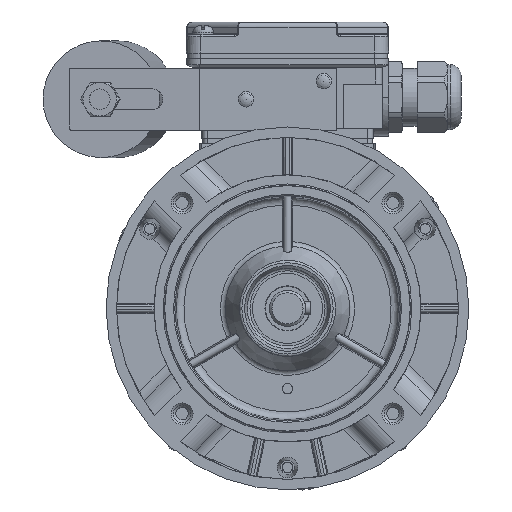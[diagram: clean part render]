
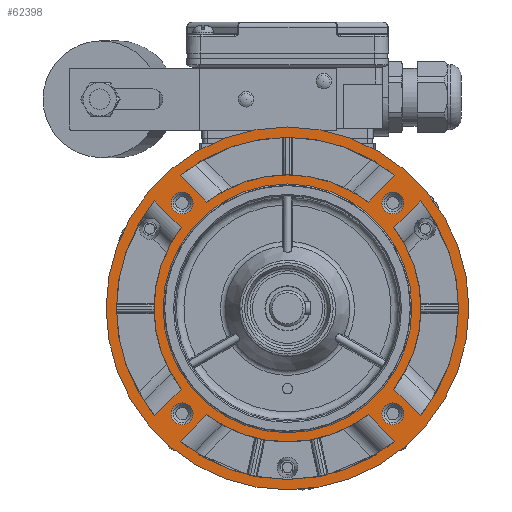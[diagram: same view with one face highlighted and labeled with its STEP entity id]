
A CAD part, front view. The second image highlights one B-rep face of the part: STEP entity #62398.
In plain terms, the highlighted planar face has unit normal (0, -1, 0).
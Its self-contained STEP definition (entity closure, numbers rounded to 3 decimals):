
#2473=CIRCLE('',#66133,48.);
#2474=CIRCLE('',#66135,51.5);
#2475=CIRCLE('',#66138,66.);
#2476=CIRCLE('',#66141,51.5);
#2477=CIRCLE('',#66144,66.);
#2478=CIRCLE('',#66147,51.5);
#2479=CIRCLE('',#66150,66.);
#2480=CIRCLE('',#66154,51.5);
#2481=CIRCLE('',#66157,66.);
#2482=CIRCLE('',#66159,4.2);
#2483=CIRCLE('',#66161,4.2);
#2484=CIRCLE('',#66163,4.2);
#2485=CIRCLE('',#66165,4.2);
#2620=CIRCLE('',#66391,70.);
#5655=LINE('',#96165,#8402);
#5656=LINE('',#96175,#8403);
#5657=LINE('',#96191,#8404);
#5658=LINE('',#96207,#8405);
#5659=LINE('',#96229,#8406);
#5660=LINE('',#96239,#8407);
#5661=LINE('',#96247,#8408);
#5662=LINE('',#96269,#8409);
#8402=VECTOR('',#75519,1000.);
#8403=VECTOR('',#75526,1000.);
#8404=VECTOR('',#75533,1000.);
#8405=VECTOR('',#75540,1000.);
#8406=VECTOR('',#75547,1000.);
#8407=VECTOR('',#75554,1000.);
#8408=VECTOR('',#75557,1000.);
#8409=VECTOR('',#75564,1000.);
#10028=PLANE('',#66390);
#19790=ORIENTED_EDGE('',*,*,#28103,.T.);
#19791=ORIENTED_EDGE('',*,*,#28102,.T.);
#19792=ORIENTED_EDGE('',*,*,#28101,.T.);
#19793=ORIENTED_EDGE('',*,*,#28100,.T.);
#19794=ORIENTED_EDGE('',*,*,#28099,.F.);
#19795=ORIENTED_EDGE('',*,*,#28098,.F.);
#19796=ORIENTED_EDGE('',*,*,#28095,.T.);
#19797=ORIENTED_EDGE('',*,*,#28093,.T.);
#19798=ORIENTED_EDGE('',*,*,#28091,.T.);
#19799=ORIENTED_EDGE('',*,*,#28089,.F.);
#19800=ORIENTED_EDGE('',*,*,#28088,.F.);
#19801=ORIENTED_EDGE('',*,*,#28085,.T.);
#19802=ORIENTED_EDGE('',*,*,#28083,.T.);
#19803=ORIENTED_EDGE('',*,*,#28081,.F.);
#19804=ORIENTED_EDGE('',*,*,#28079,.F.);
#19805=ORIENTED_EDGE('',*,*,#28077,.T.);
#19806=ORIENTED_EDGE('',*,*,#28075,.T.);
#19807=ORIENTED_EDGE('',*,*,#28073,.F.);
#19808=ORIENTED_EDGE('',*,*,#28072,.F.);
#19809=ORIENTED_EDGE('',*,*,#28069,.T.);
#19810=ORIENTED_EDGE('',*,*,#28067,.T.);
#19811=ORIENTED_EDGE('',*,*,#28478,.T.);
#28067=EDGE_CURVE('',#33204,#33204,#2473,.F.);
#28069=EDGE_CURVE('',#33206,#33205,#2474,.T.);
#28072=EDGE_CURVE('',#33206,#33207,#5655,.T.);
#28073=EDGE_CURVE('',#33207,#33208,#2475,.T.);
#28075=EDGE_CURVE('',#33205,#33208,#5656,.T.);
#28077=EDGE_CURVE('',#33210,#33209,#2476,.T.);
#28079=EDGE_CURVE('',#33210,#33211,#5657,.T.);
#28081=EDGE_CURVE('',#33211,#33212,#2477,.T.);
#28083=EDGE_CURVE('',#33209,#33212,#5658,.T.);
#28085=EDGE_CURVE('',#33214,#33213,#2478,.T.);
#28088=EDGE_CURVE('',#33214,#33215,#5659,.T.);
#28089=EDGE_CURVE('',#33215,#33216,#2479,.T.);
#28091=EDGE_CURVE('',#33213,#33216,#5660,.T.);
#28093=EDGE_CURVE('',#33218,#33217,#5661,.T.);
#28095=EDGE_CURVE('',#33219,#33218,#2480,.T.);
#28098=EDGE_CURVE('',#33219,#33220,#5662,.T.);
#28099=EDGE_CURVE('',#33220,#33217,#2481,.T.);
#28100=EDGE_CURVE('',#33221,#33221,#2482,.F.);
#28101=EDGE_CURVE('',#33222,#33222,#2483,.F.);
#28102=EDGE_CURVE('',#33223,#33223,#2484,.F.);
#28103=EDGE_CURVE('',#33224,#33224,#2485,.F.);
#28478=EDGE_CURVE('',#33465,#33465,#2620,.T.);
#33204=VERTEX_POINT('',#96143);
#33205=VERTEX_POINT('',#96150);
#33206=VERTEX_POINT('',#96152);
#33207=VERTEX_POINT('',#96164);
#33208=VERTEX_POINT('',#96168);
#33209=VERTEX_POINT('',#96182);
#33210=VERTEX_POINT('',#96184);
#33211=VERTEX_POINT('',#96192);
#33212=VERTEX_POINT('',#96200);
#33213=VERTEX_POINT('',#96214);
#33214=VERTEX_POINT('',#96216);
#33215=VERTEX_POINT('',#96228);
#33216=VERTEX_POINT('',#96232);
#33217=VERTEX_POINT('',#96246);
#33218=VERTEX_POINT('',#96248);
#33219=VERTEX_POINT('',#96256);
#33220=VERTEX_POINT('',#96268);
#33221=VERTEX_POINT('',#96274);
#33222=VERTEX_POINT('',#96277);
#33223=VERTEX_POINT('',#96280);
#33224=VERTEX_POINT('',#96283);
#33465=VERTEX_POINT('',#98928);
#38453=EDGE_LOOP('',(#19790));
#38454=EDGE_LOOP('',(#19791));
#38455=EDGE_LOOP('',(#19792));
#38456=EDGE_LOOP('',(#19793));
#38457=EDGE_LOOP('',(#19794,#19795,#19796,#19797));
#38458=EDGE_LOOP('',(#19798,#19799,#19800,#19801));
#38459=EDGE_LOOP('',(#19802,#19803,#19804,#19805));
#38460=EDGE_LOOP('',(#19806,#19807,#19808,#19809));
#38461=EDGE_LOOP('',(#19810));
#38462=EDGE_LOOP('',(#19811));
#41500=FACE_BOUND('',#38453,.T.);
#41501=FACE_BOUND('',#38454,.T.);
#41502=FACE_BOUND('',#38455,.T.);
#41503=FACE_BOUND('',#38456,.T.);
#41504=FACE_BOUND('',#38457,.T.);
#41505=FACE_BOUND('',#38458,.T.);
#41506=FACE_BOUND('',#38459,.T.);
#41507=FACE_BOUND('',#38460,.T.);
#41508=FACE_BOUND('',#38461,.T.);
#41509=FACE_BOUND('',#38462,.T.);
#62398=ADVANCED_FACE('',(#41500,#41501,#41502,#41503,#41504,#41505,#41506,
#41507,#41508,#41509),#10028,.T.);
#66133=AXIS2_PLACEMENT_3D('',#96142,#75511,#75512);
#66135=AXIS2_PLACEMENT_3D('',#96151,#75515,#75516);
#66138=AXIS2_PLACEMENT_3D('',#96167,#75522,#75523);
#66141=AXIS2_PLACEMENT_3D('',#96183,#75529,#75530);
#66144=AXIS2_PLACEMENT_3D('',#96199,#75536,#75537);
#66147=AXIS2_PLACEMENT_3D('',#96215,#75543,#75544);
#66150=AXIS2_PLACEMENT_3D('',#96231,#75550,#75551);
#66154=AXIS2_PLACEMENT_3D('',#96255,#75560,#75561);
#66157=AXIS2_PLACEMENT_3D('',#96271,#75567,#75568);
#66159=AXIS2_PLACEMENT_3D('',#96273,#75571,#75572);
#66161=AXIS2_PLACEMENT_3D('',#96276,#75575,#75576);
#66163=AXIS2_PLACEMENT_3D('',#96279,#75579,#75580);
#66165=AXIS2_PLACEMENT_3D('',#96282,#75583,#75584);
#66390=AXIS2_PLACEMENT_3D('',#98926,#76077,#76078);
#66391=AXIS2_PLACEMENT_3D('',#98927,#76079,#76080);
#75511=DIRECTION('',(0.,-1.,0.));
#75512=DIRECTION('',(0.,0.,1.));
#75515=DIRECTION('',(0.,-1.,0.));
#75516=DIRECTION('',(0.,0.,1.));
#75519=DIRECTION('',(0.707,0.,0.707));
#75522=DIRECTION('',(0.,-1.,0.));
#75523=DIRECTION('',(0.,0.,1.));
#75526=DIRECTION('',(-0.707,0.,0.707));
#75529=DIRECTION('',(0.,-1.,0.));
#75530=DIRECTION('',(0.,0.,1.));
#75533=DIRECTION('',(-0.707,0.,0.707));
#75536=DIRECTION('',(0.,-1.,0.));
#75537=DIRECTION('',(0.,0.,1.));
#75540=DIRECTION('',(-0.707,0.,-0.707));
#75543=DIRECTION('',(0.,-1.,0.));
#75544=DIRECTION('',(0.,0.,1.));
#75547=DIRECTION('',(-0.707,0.,-0.707));
#75550=DIRECTION('',(0.,-1.,0.));
#75551=DIRECTION('',(0.,0.,1.));
#75554=DIRECTION('',(0.707,0.,-0.707));
#75557=DIRECTION('',(0.707,0.,0.707));
#75560=DIRECTION('',(0.,-1.,0.));
#75561=DIRECTION('',(0.,0.,1.));
#75564=DIRECTION('',(0.707,0.,-0.707));
#75567=DIRECTION('',(0.,-1.,0.));
#75568=DIRECTION('',(0.,0.,1.));
#75571=DIRECTION('',(0.,-1.,0.));
#75572=DIRECTION('',(0.,0.,1.));
#75575=DIRECTION('',(0.,-1.,0.));
#75576=DIRECTION('',(0.,0.,1.));
#75579=DIRECTION('',(0.,-1.,0.));
#75580=DIRECTION('',(0.,0.,1.));
#75583=DIRECTION('',(0.,-1.,0.));
#75584=DIRECTION('',(0.,0.,1.));
#76077=DIRECTION('',(0.,-1.,0.));
#76078=DIRECTION('',(0.,0.,1.));
#76079=DIRECTION('',(0.,-1.,0.));
#76080=DIRECTION('',(0.,0.,1.));
#96142=CARTESIAN_POINT('',(0.,-90.,0.));
#96143=CARTESIAN_POINT('',(0.,-90.,48.));
#96150=CARTESIAN_POINT('',(-31.128,-90.,41.028));
#96151=CARTESIAN_POINT('',(0.,-90.,0.));
#96152=CARTESIAN_POINT('',(31.128,-90.,41.028));
#96164=CARTESIAN_POINT('',(41.456,-90.,51.356));
#96165=CARTESIAN_POINT('',(29.217,-90.,39.116));
#96167=CARTESIAN_POINT('',(0.,-90.,0.));
#96168=CARTESIAN_POINT('',(-41.456,-90.,51.356));
#96175=CARTESIAN_POINT('',(-29.217,-90.,39.116));
#96182=CARTESIAN_POINT('',(-41.028,-90.,-31.128));
#96183=CARTESIAN_POINT('',(0.,-90.,0.));
#96184=CARTESIAN_POINT('',(-41.028,-90.,31.128));
#96191=CARTESIAN_POINT('',(-39.116,-90.,29.217));
#96192=CARTESIAN_POINT('',(-51.356,-90.,41.456));
#96199=CARTESIAN_POINT('',(0.,-90.,0.));
#96200=CARTESIAN_POINT('',(-51.356,-90.,-41.456));
#96207=CARTESIAN_POINT('',(-39.116,-90.,-29.217));
#96214=CARTESIAN_POINT('',(31.128,-90.,-41.028));
#96215=CARTESIAN_POINT('',(0.,-90.,0.));
#96216=CARTESIAN_POINT('',(-31.128,-90.,-41.028));
#96228=CARTESIAN_POINT('',(-41.456,-90.,-51.356));
#96229=CARTESIAN_POINT('',(-29.217,-90.,-39.116));
#96231=CARTESIAN_POINT('',(0.,-90.,0.));
#96232=CARTESIAN_POINT('',(41.456,-90.,-51.356));
#96239=CARTESIAN_POINT('',(29.217,-90.,-39.116));
#96246=CARTESIAN_POINT('',(51.356,-90.,41.456));
#96247=CARTESIAN_POINT('',(39.116,-90.,29.217));
#96248=CARTESIAN_POINT('',(41.028,-90.,31.128));
#96255=CARTESIAN_POINT('',(0.,-90.,0.));
#96256=CARTESIAN_POINT('',(41.028,-90.,-31.128));
#96268=CARTESIAN_POINT('',(51.356,-90.,-41.456));
#96269=CARTESIAN_POINT('',(39.116,-90.,-29.217));
#96271=CARTESIAN_POINT('',(0.,-90.,0.));
#96273=CARTESIAN_POINT('',(-40.659,-90.,40.659));
#96274=CARTESIAN_POINT('',(-40.659,-90.,44.859));
#96276=CARTESIAN_POINT('',(40.659,-90.,40.659));
#96277=CARTESIAN_POINT('',(40.659,-90.,44.859));
#96279=CARTESIAN_POINT('',(40.659,-90.,-40.659));
#96280=CARTESIAN_POINT('',(40.659,-90.,-36.459));
#96282=CARTESIAN_POINT('',(-40.659,-90.,-40.659));
#96283=CARTESIAN_POINT('',(-40.659,-90.,-36.459));
#98926=CARTESIAN_POINT('',(0.,-90.,47.5));
#98927=CARTESIAN_POINT('',(0.,-90.,0.));
#98928=CARTESIAN_POINT('',(0.,-90.,70.));
